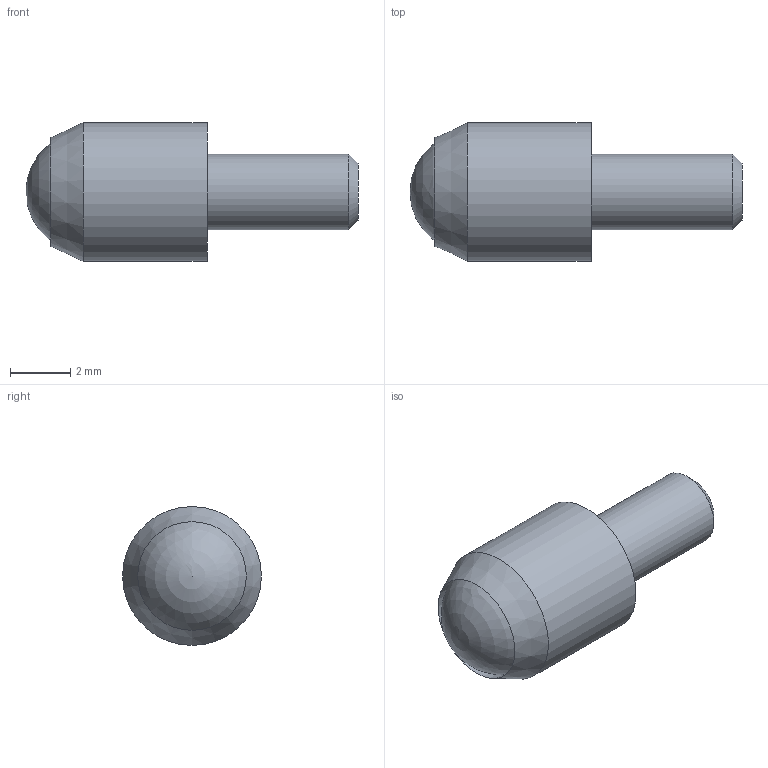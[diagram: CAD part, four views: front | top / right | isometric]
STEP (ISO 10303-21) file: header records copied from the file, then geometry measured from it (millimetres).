
FILE_DESCRIPTION( ( 'STEP AP214' ), '1' );
FILE_NAME( 'N:/Engineering/CAD_Solid/LVDT/Zubehör/Tastkopf_01.stp', '2011-12-12T13:58:32', ( ' ' ), ( ' ' ), 'XStep 1.0', ' ', ' ' );
FILE_SCHEMA( ( 'CONFIG_CONTROL_DESIGN) ( )' ) );
Length unit declared in the file: metre
Products named in the file (1): 1
Bounding box: 11 x 4.6 x 4.6 mm (x, y, z)
Volume: 110 mm3; surface area: 146.4 mm2
Topology: 1 solids, 1 shells, 8 faces, 17 edges, 11 vertices
Faces by surface type: cylinder 3, cone 2, plane 2, sphere 1
Full cylindrical faces by diameter (mm): 2.5 x1, 3.6 x1, 4.6 x1
Entity records: 234 total; most frequent: DIRECTION 32, CARTESIAN_POINT 23, AXIS2_PLACEMENT_3D 16, EDGE_LOOP 14, ORIENTED_EDGE 14, FACE_OUTER_BOUND 11, STYLED_ITEM 8, PRESENTATION_STYLE_ASSIGNMENT 8
